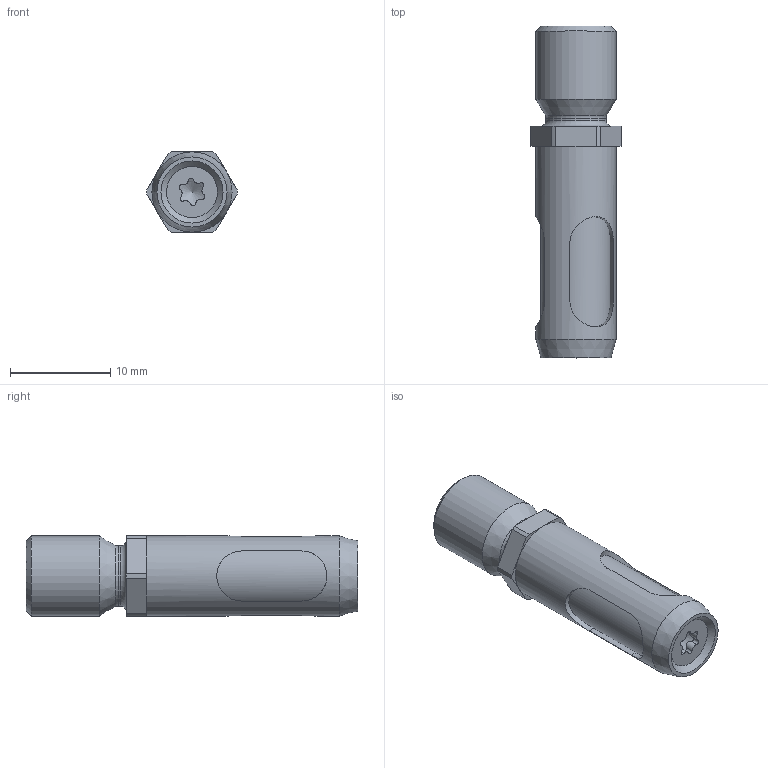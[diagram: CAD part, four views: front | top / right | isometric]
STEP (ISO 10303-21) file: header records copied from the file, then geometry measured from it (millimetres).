
FILE_DESCRIPTION(/* description */ (''),/* implementation_level */ '2;1');
FILE_NAME(/* name */ '\\dc01\daten\CAD\Standard\Daten\3D-Datenbank\GI\GIS\4 - 3D-CAD-Daten GIS 004-020\G-GIS008\G-GIS008_Rev.1.02.stp',/* time_stamp */ '2022-11-29T15:54:36+01:00',/* author */ ('ysplieth'),/* organization */ (''),/* preprocessor_version */ 'ST-DEVELOPER v17',/* originating_system */ 'Autodesk Inventor 2018',/* authorisation */ '');
FILE_SCHEMA (('AUTOMOTIVE_DESIGN { 1 0 10303 214 3 1 1 }'));
Length unit declared in the file: millimetre
Products named in the file (1): Bauteil13
Bounding box: 9 x 33.15 x 8 mm (x, y, z)
Volume: 1229.5 mm3; surface area: 1952.8 mm2
Topology: 1 solids, 4 shells, 87 faces, 240 edges, 163 vertices
Faces by surface type: cylinder 42, plane 28, cone 13, torus 4
Full cylindrical faces by diameter (mm): 2.459 x3, 2.8 x2, 3 x1, 3.2 x1, 4.134 x1, 4.8 x1, 5 x1, 6 x1, 6.9 x1, 7 x1, 8 x2
Entity records: 3410 total; most frequent: CARTESIAN_POINT 1021, DIRECTION 479, ORIENTED_EDGE 474, EDGE_CURVE 237, AXIS2_PLACEMENT_3D 191, VERTEX_POINT 163, CIRCLE 103, EDGE_LOOP 100
